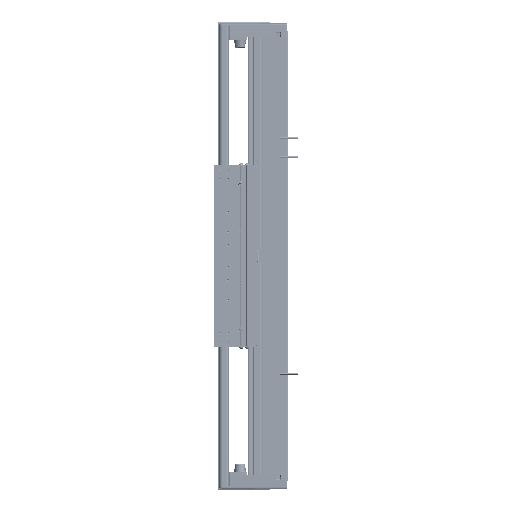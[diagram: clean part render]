
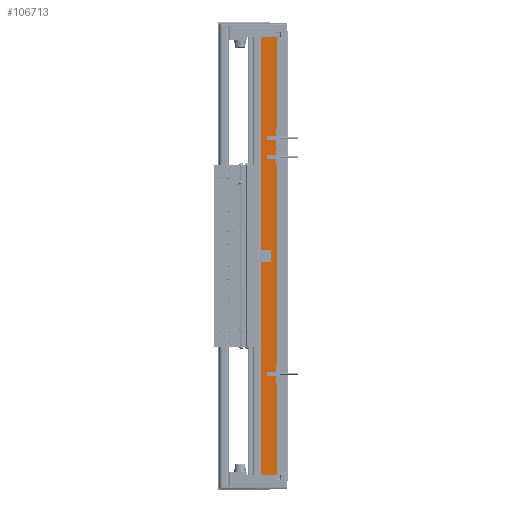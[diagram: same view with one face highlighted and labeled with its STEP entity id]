
A CAD part, left-side view. The second image highlights one B-rep face of the part: STEP entity #106713.
In plain terms, the highlighted planar face has unit normal (-1, 0, 0).
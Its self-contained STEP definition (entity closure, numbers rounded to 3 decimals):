
#811 = DIRECTION ( 'NONE',  ( 0., 0., -1. ) ) ;
#1002 = VERTEX_POINT ( 'NONE', #115949 ) ;
#2989 = CARTESIAN_POINT ( 'NONE',  ( -97.5, 14.45, 300. ) ) ;
#3912 = CARTESIAN_POINT ( 'NONE',  ( -97.5, 36.95, 300. ) ) ;
#4241 = ORIENTED_EDGE ( 'NONE', *, *, #95874, .F. ) ;
#8853 = DIRECTION ( 'NONE',  ( 0., -1., 0. ) ) ;
#14920 = LINE ( 'NONE', #2989, #42969 ) ;
#17024 = LINE ( 'NONE', #17707, #123843 ) ;
#17707 = CARTESIAN_POINT ( 'NONE',  ( -97.5, 36.95, -300. ) ) ;
#19240 = ORIENTED_EDGE ( 'NONE', *, *, #119082, .T. ) ;
#19498 = LINE ( 'NONE', #3912, #24108 ) ;
#21130 = EDGE_CURVE ( 'NONE', #1002, #114795, #19498, .T. ) ;
#24108 = VECTOR ( 'NONE', #811, 1000. ) ;
#25295 = ORIENTED_EDGE ( 'NONE', *, *, #21130, .T. ) ;
#28650 = CARTESIAN_POINT ( 'NONE',  ( -97.5, 36.95, 300. ) ) ;
#38647 = FACE_OUTER_BOUND ( 'NONE', #89388, .T. ) ;
#42969 = VECTOR ( 'NONE', #43639, 1000. ) ;
#43639 = DIRECTION ( 'NONE',  ( 0., 0., -1. ) ) ;
#49867 = AXIS2_PLACEMENT_3D ( 'NONE', #28650, #69421, #110108 ) ;
#54807 = CARTESIAN_POINT ( 'NONE',  ( -97.5, 14.45, 300. ) ) ;
#69421 = DIRECTION ( 'NONE',  ( 1., 0., 0. ) ) ;
#78660 = ORIENTED_EDGE ( 'NONE', *, *, #120246, .F. ) ;
#79390 = VERTEX_POINT ( 'NONE', #54807 ) ;
#89388 = EDGE_LOOP ( 'NONE', ( #19240, #78660, #4241, #25295 ) ) ;
#90311 = LINE ( 'NONE', #110331, #120242 ) ;
#95874 = EDGE_CURVE ( 'NONE', #1002, #79390, #90311, .T. ) ;
#96130 = CARTESIAN_POINT ( 'NONE',  ( -97.5, 36.95, -300. ) ) ;
#99936 = VERTEX_POINT ( 'NONE', #120350 ) ;
#106713 = ADVANCED_FACE ( 'NONE', ( #38647 ), #120146, .F. ) ;
#110108 = DIRECTION ( 'NONE',  ( 0., 1., 0. ) ) ;
#110331 = CARTESIAN_POINT ( 'NONE',  ( -97.5, 36.95, 300. ) ) ;
#114795 = VERTEX_POINT ( 'NONE', #96130 ) ;
#115949 = CARTESIAN_POINT ( 'NONE',  ( -97.5, 36.95, 300. ) ) ;
#118540 = DIRECTION ( 'NONE',  ( 0., -1., 0. ) ) ;
#119082 = EDGE_CURVE ( 'NONE', #114795, #99936, #17024, .T. ) ;
#120146 = PLANE ( 'NONE',  #49867 ) ;
#120242 = VECTOR ( 'NONE', #8853, 1000. ) ;
#120246 = EDGE_CURVE ( 'NONE', #79390, #99936, #14920, .T. ) ;
#120350 = CARTESIAN_POINT ( 'NONE',  ( -97.5, 14.45, -300. ) ) ;
#123843 = VECTOR ( 'NONE', #118540, 1000. ) ;
